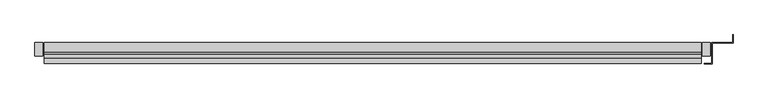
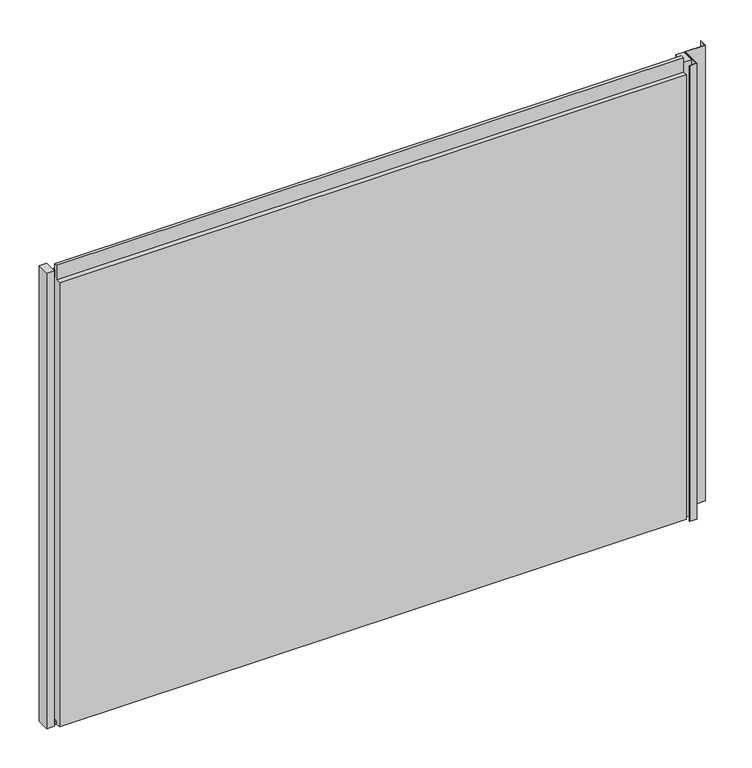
"""IFC4 building model written with IfcOpenShell, lengths in millimetres: plate geometry, Trimo_Qbiss Screen_Normal Panel-HORIZONTAL : HR - B-F."""

from ifc_helpers import new_model, si_unit, frame, origin, place, context, project, spatial, polyline, outline, extrude, source, transform, mapped, element, save


def plate_4e651b4e(model_context):
    return source(origin(), model_context, "Body", "SweptSolid", [
        extrude(outline(polyline([(750.0, 50.0), (750.0, 100.0), (800.0, 100.0), (800.0, 118.5), (800.8, 118.5), (800.8, 99.2), (750.8, 99.2), (750.8, 49.2), (732.5, 49.2), (732.5, 50.0), (750.0, 50.0)])), frame((0.0, 0.0, -1.0), z_axis=(0.0, 0.0, 1.0), x_axis=(1.0, 0.0, 0.0)), (0.0, 0.0, 1.0), 1200.0),
        extrude(outline(polyline([(-840.5, 67.8978162), (-859.5, 67.8978162), (-859.5, 100.0), (-840.5, 100.0), (-840.5, 67.8978162)])), frame((0.0, 0.0, -1.0), z_axis=(0.0, 0.0, 1.0), x_axis=(1.0, 0.0, 0.0)), (0.0, 0.0, 1.0), 1200.0),
        extrude(outline(polyline([(747.0, 67.8978162), (728.0, 67.8978162), (728.0, 100.0), (747.0, 100.0), (747.0, 67.8978162)])), frame((0.0, 0.0, -1.0), z_axis=(0.0, 0.0, 1.0), x_axis=(1.0, 0.0, 0.0)), (0.0, 0.0, 1.0), 1200.0),
        extrude(outline(polyline([(725.0, 76.0), (725.0, 71.0), (-837.5, 71.0), (-837.5, 76.0), (725.0, 76.0)])), frame((0.0, 0.0, 1178.0), z_axis=(0.0, 0.0, 1.0), x_axis=(1.0, 0.0, 0.0)), (0.0, 0.0, 1.0), 21.0),
        extrude(outline(polyline([(71.0, 1177.0), (100.0, 1177.0), (100.0, 0.0), (72.0, 0.0), (72.0, 15.5), (62.0, 15.5), (62.0, 7.0), (50.0, 7.0), (50.0, 1177.0), (63.0, 1177.0), (63.0, 1214.5), (71.0, 1214.5), (71.0, 1177.0)])), frame((-837.5, 0.0, 0.0), z_axis=(1.0, 0.0, 0.0), x_axis=(0.0, 1.0, 0.0)), (0.0, 0.0, 1.0), 1562.5),
    ])


if __name__ == "__main__":
    model = new_model("IFC4")
    model_context = context("Model", 3, world=origin())
    ifc_project = project(units=[si_unit("LENGTHUNIT", "METRE", prefix="MILLI")], contexts=[model_context])
    site = spatial("IfcSite", under=ifc_project)
    building = spatial("IfcBuilding", under=site)
    placement = place(None, origin())
    plate_shape = plate_4e651b4e(model_context)
    element("IfcPlate", 1, ObjectType="Trimo_Qbiss Screen_Normal Panel-HORIZONTAL : HR - B-F", at=placement, inside=building, context=model_context, shape_type="MappedRepresentation", body=[
        mapped(plate_shape, transform((0.0, 0.0, 0.0), x_axis=(1.0, 0.0, 0.0), y_axis=(0.0, 1.0, 0.0), z_axis=(0.0, 0.0, 1.0))),
    ])
    save(model, "model.ifc")
